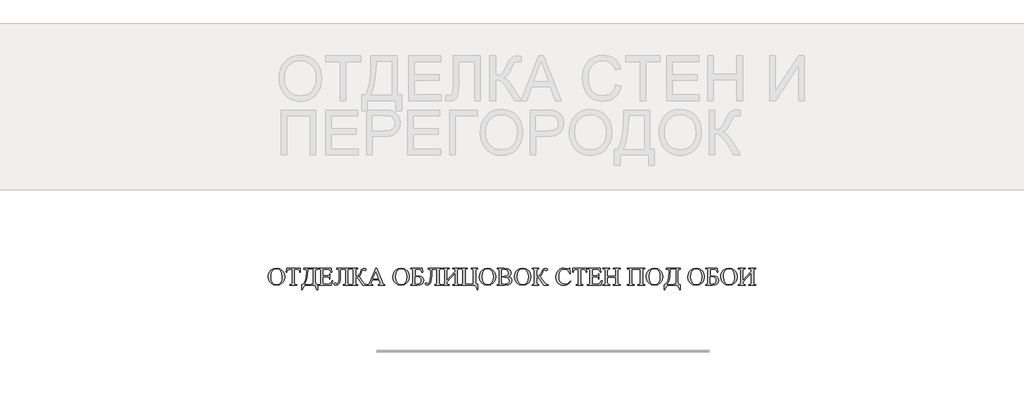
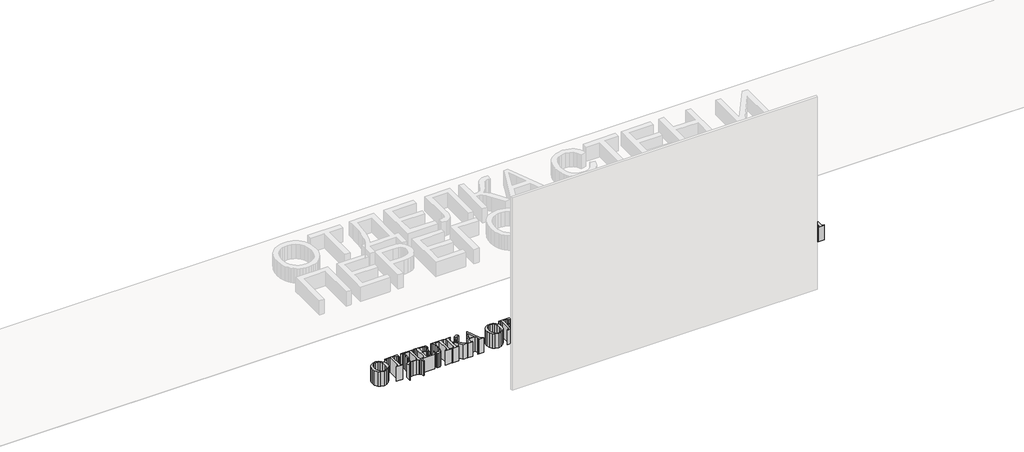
# One storey, part 14 of 17: 1 proxy.
"""IFC4 building model written with IfcOpenShell, lengths in millimetres."""

from ifc_helpers import new_model, si_unit, origin, origin_with_axes, place, context, project, spatial, polyline, outline, extrude, element, save

model = new_model("IFC4")

# Units and contexts
model_context = context("Model", 3, world=origin())
ifc_project = project(units=[si_unit("LENGTHUNIT", "METRE", prefix="MILLI")], contexts=[model_context])

# Site, building, storey
site = spatial("IfcSite", under=ifc_project)
building = spatial("IfcBuilding", under=site)
storey = spatial("IfcBuildingStorey", under=building, Name="Уровень 1", Elevation=0.0)

# Proxy
placement = place(None, origin())
element("IfcBuildingElementProxy", 1, Name="SG_Текст 2", ObjectType="SG_Текст 2", at=placement, inside=storey, context=model_context, shape_type="SweptSolid", body=[
    extrude(outline(polyline([(-694.4542029, 17619.3850863), (-666.748358, 17613.9243699), (-643.0048009, 17597.5422205), (-626.682991, 17572.994138), (-621.2423877, 17543.0356218), (-626.7232173, 17512.2273257), (-643.165706, 17487.1412168), (-667.3919784, 17470.4724553), (-696.2241589, 17464.9162014), (-725.2021597, 17470.3366916), (-749.1418199, 17486.5981621), (-765.2071873, 17511.4680548), (-770.5623098, 17542.7138117), (-769.0161124, 17559.485653), (-764.3775204, 17574.6434152), (-756.6465337, 17588.1870981), (-745.8231524, 17600.116702), (-722.2405004, 17614.5679902), (-694.4542029, 17619.3850863)]), holes=[polyline([(-696.5861954, 17611.6616421), (-715.0299411, 17607.9809382), (-729.4108334, 17596.9388265), (-740.9658301, 17574.3417181), (-744.8174956, 17543.2367532), (-740.8250381, 17511.1965275), (-728.8476656, 17487.4831401), (-714.6176218, 17476.3505193), (-696.4655165, 17472.6396457), (-676.8552089, 17476.7024992), (-660.9859445, 17488.8910596), (-650.4868875, 17509.8388908), (-646.9872019, 17540.1795565), (-650.8388674, 17573.3260047), (-662.3938641, 17596.8181476), (-677.1166797, 17607.9507685), (-696.5861954, 17611.6616421)])]), origin_with_axes(), (0.0, 0.0, 1.0), 150.0),
    extrude(outline(polyline([(-482.2203913, 17616.8106049), (-479.6459099, 17583.3423465), (-483.8294422, 17583.3423465), (-487.2486753, 17596.6170163), (-496.6012836, 17606.0500771), (-512.028059, 17609.0871606), (-533.7100196, 17609.0871606), (-533.7100196, 17493.235497), (-530.813728, 17474.9727695), (-518.1826786, 17470.0651643), (-513.1141683, 17470.0651643), (-513.1141683, 17467.4906828), (-574.9017223, 17467.4906828), (-574.9017223, 17470.0651643), (-569.7527594, 17470.0651643), (-561.8784667, 17471.583706), (-556.679221, 17476.1393313), (-554.3058709, 17493.235497), (-554.3058709, 17609.0871606), (-572.1663357, 17609.0871606), (-586.9696039, 17607.5585623), (-596.744588, 17599.4931947), (-601.5717407, 17583.3423465), (-605.7954992, 17583.3423465), (-603.2210178, 17616.8106049), (-482.2203913, 17616.8106049)])), origin_with_axes(), (0.0, 0.0, 1.0), 150.0),
    extrude(outline(polyline([(-448.7521329, 17616.8106049), (-325.1770251, 17616.8106049), (-325.1770251, 17611.6616421), (-342.0921725, 17607.2769784), (-345.7728764, 17588.6924407), (-345.7728764, 17506.4699405), (-343.0173767, 17476.9840831), (-337.179539, 17472.7603245), (-325.1770251, 17471.352405), (-325.1770251, 17423.7244988), (-330.3259879, 17423.7244988), (-340.6038004, 17450.4950829), (-348.1763961, 17458.9677414), (-356.6943092, 17464.0714497), (-378.235478, 17467.4906828), (-415.0827432, 17467.4906828), (-436.0506875, 17464.04128), (-450.6025415, 17453.6930715), (-459.6735658, 17439.3021227), (-464.1990214, 17423.7244988), (-469.3479843, 17423.7244988), (-469.3479843, 17471.352405), (-453.9966332, 17477.3964023), (-441.813101, 17492.4711978), (-432.837614, 17514.2939504), (-427.1103986, 17540.5818193), (-423.0073188, 17587.3649737), (-425.8633841, 17603.4554825), (-432.641511, 17609.9117992), (-448.7521329, 17611.6616421), (-448.7521329, 17616.8106049)]), holes=[polyline([(-410.1349117, 17609.0871606), (-414.0971995, 17553.1676141), (-420.5132899, 17516.8684318), (-429.4636355, 17493.2103556), (-441.0286887, 17475.2141271), (-386.6427688, 17475.2141271), (-369.2449061, 17477.8087216), (-366.3687277, 17494.7238691), (-366.3687277, 17609.0871606), (-410.1349117, 17609.0871606)])]), origin_with_axes(), (0.0, 0.0, 1.0), 150.0),
    extrude(outline(polyline([(-276.2618782, 17609.0871606), (-276.2618782, 17549.8740881), (-240.2191384, 17549.8740881), (-223.3643304, 17553.5346789), (-218.949497, 17560.1820703), (-217.0488056, 17570.4699394), (-214.4743242, 17570.4699394), (-214.4743242, 17521.5547925), (-217.0488056, 17521.5547925), (-220.1060023, 17534.5076522), (-226.5019796, 17540.1192171), (-240.2191384, 17542.1506439), (-276.2618782, 17542.1506439), (-276.2618782, 17492.1896139), (-275.3366739, 17479.9608272), (-272.098459, 17476.5013678), (-263.3492448, 17475.2141271), (-236.7999052, 17475.2141271), (-217.5114078, 17477.0645356), (-205.9463545, 17484.3857171), (-191.3039915, 17506.1079041), (-186.1550287, 17506.1079041), (-199.7515086, 17467.4906828), (-317.4535808, 17467.4906828), (-317.4535808, 17470.0651643), (-312.3448443, 17470.0651643), (-302.6905389, 17472.7200982), (-298.0846308, 17478.2109844), (-296.8577295, 17493.235497), (-296.8577295, 17591.0657907), (-299.6333423, 17609.5698759), (-312.3448443, 17614.2361235), (-317.4535808, 17614.2361235), (-317.4535808, 17616.8106049), (-201.6019172, 17616.8106049), (-199.0274357, 17583.3423465), (-204.1763986, 17583.3423465), (-209.4460402, 17600.3178333), (-218.0142362, 17607.3574309), (-234.0242925, 17609.0871606), (-276.2618782, 17609.0871606)])), origin_with_axes(), (0.0, 0.0, 1.0), 150.0),
    extrude(outline(polyline([(-72.8778464, 17609.0871606), (-119.2185119, 17609.0871606), (-119.2185119, 17566.8898012), (-122.0041812, 17514.2185262), (-130.3611893, 17483.9633413), (-143.6157459, 17469.6779864), (-161.0940612, 17464.9162014), (-173.926242, 17468.8986024), (-178.4315844, 17478.150645), (-175.5352928, 17485.1299032), (-168.4956952, 17488.0865342), (-160.5711196, 17484.4259434), (-151.5202084, 17480.3630899), (-142.6855134, 17484.3605757), (-135.650944, 17496.3530331), (-131.0500642, 17519.4982244), (-129.5164376, 17556.953912), (-129.5164376, 17588.4108568), (-133.1971414, 17607.2367521), (-150.1122889, 17611.6616421), (-150.1122889, 17616.8106049), (-31.6861438, 17616.8106049), (-31.6861438, 17614.2361235), (-48.6012912, 17609.8313467), (-52.2819951, 17591.0657907), (-52.2819951, 17493.235497), (-48.6012912, 17474.4699411), (-31.6861438, 17470.0651643), (-31.6861438, 17467.4906828), (-93.4736977, 17467.4906828), (-93.4736977, 17470.0651643), (-76.5585503, 17474.4699411), (-72.8778464, 17493.235497), (-72.8778464, 17609.0871606)])), origin_with_axes(), (0.0, 0.0, 1.0), 150.0),
    extrude(outline(polyline([(121.4150478, 17471.5937626), (121.4150478, 17467.4906828), (82.4357901, 17467.4906828), (55.6450929, 17505.3234918), (30.7450305, 17536.2977213), (17.2290031, 17539.5761624), (17.2290031, 17493.235497), (20.8493676, 17474.4699411), (37.8248544, 17470.0651643), (37.8248544, 17467.4906828), (-23.9626996, 17467.4906828), (-23.9626996, 17470.0651643), (-7.0877784, 17474.4297148), (-3.3668482, 17493.235497), (-3.3668482, 17591.0657907), (-7.0475521, 17609.8313467), (-23.9626996, 17614.2361235), (-23.9626996, 17616.8106049), (37.8248544, 17616.8106049), (37.8248544, 17614.2361235), (20.8493676, 17609.8313467), (17.2290031, 17591.0657907), (17.2290031, 17547.2996067), (34.1039242, 17548.9287707), (44.6432075, 17555.8476895), (53.9153632, 17567.4931953), (62.6846905, 17588.0085941), (70.8908501, 17606.633358), (81.1083232, 17615.6239299), (97.8424524, 17619.3850863), (110.7550857, 17616.2876633), (115.0592968, 17606.9953945), (111.6601768, 17599.4328553), (103.8763932, 17596.2147536), (93.3773362, 17600.277607), (84.3666512, 17603.9381978), (78.2120316, 17600.1971545), (70.0460983, 17581.1299015), (57.8575379, 17557.7483809), (42.6922333, 17544.8055778), (53.3924217, 17536.0161374), (69.3220254, 17516.2449246), (98.4056202, 17480.6849001), (108.8644509, 17474.0073389), (121.4150478, 17471.5937626)])), origin_with_axes(), (0.0, 0.0, 1.0), 150.0),
    extrude(outline(polyline([(226.6872019, 17516.4058297), (168.4395599, 17516.4058297), (158.8254809, 17494.0400224), (155.0844376, 17480.1217323), (158.3427656, 17473.6855287), (172.4219608, 17470.0651643), (172.4219608, 17467.4906828), (124.9549598, 17467.4906828), (124.9549598, 17470.0651643), (137.1032939, 17474.7314118), (149.6136646, 17498.1028759), (201.9882708, 17619.3850863), (207.4992701, 17619.3850863), (256.6557746, 17496.1317886), (268.1202622, 17475.4152584), (282.440815, 17470.0651643), (282.440815, 17467.4906828), (223.4288739, 17467.4906828), (223.4288739, 17470.0651643), (235.5168686, 17473.3838317), (238.674631, 17480.2826374), (234.2497411, 17497.4190293), (226.6872019, 17516.4058297)]), holes=[polyline([(223.5897789, 17524.129274), (198.7299428, 17584.750266), (171.7783405, 17524.129274), (223.5897789, 17524.129274)])]), origin_with_axes(), (0.0, 0.0, 1.0), 150.0),
    extrude(outline(polyline([(430.5941752, 17619.3850863), (458.3000201, 17613.9243699), (482.0435772, 17597.5422205), (498.3653871, 17572.994138), (503.8059904, 17543.0356218), (498.3251608, 17512.2273257), (481.8826721, 17487.1412168), (457.6563997, 17470.4724553), (428.8242192, 17464.9162014), (399.8462184, 17470.3366916), (375.9065583, 17486.5981621), (359.8411908, 17511.4680548), (354.4860684, 17542.7138117), (356.0322657, 17559.485653), (360.6708577, 17574.6434152), (368.4018444, 17588.1870981), (379.2252257, 17600.116702), (402.8078777, 17614.5679902), (430.5941752, 17619.3850863)]), holes=[polyline([(428.4621828, 17611.6616421), (410.018437, 17607.9809382), (395.6375447, 17596.9388265), (384.0825481, 17574.3417181), (380.2308825, 17543.2367532), (384.22334, 17511.1965275), (396.2007125, 17487.4831401), (410.4307563, 17476.3505193), (428.5828616, 17472.6396457), (448.1931692, 17476.7024992), (464.0624336, 17488.8910596), (474.5614906, 17509.8388908), (478.0611763, 17540.1795565), (474.2095107, 17573.3260047), (462.654514, 17596.8181476), (447.9316985, 17607.9507685), (428.4621828, 17611.6616421)])]), origin_with_axes(), (0.0, 0.0, 1.0), 150.0),
    extrude(outline(polyline([(620.2208219, 17616.8106049), (622.2321355, 17583.3423465), (617.0831726, 17583.3423465), (612.6331413, 17596.9941376), (606.2824186, 17604.561705), (596.1403697, 17607.9557967), (580.3163599, 17609.0871606), (555.2956187, 17609.0871606), (555.2956187, 17549.8740881), (561.4100121, 17549.8740881), (602.7223935, 17546.3945156), (614.6947377, 17541.320977), (624.2233359, 17533.0595064), (630.4533798, 17522.218526), (632.5300611, 17509.4064584), (629.4376665, 17493.7332971), (620.1604825, 17480.1016191), (603.3107027, 17470.6434169), (577.5005209, 17467.4906828), (514.1039161, 17467.4906828), (514.1039161, 17470.0651643), (531.0190635, 17474.4699411), (534.6997674, 17493.235497), (534.6997674, 17591.0657907), (533.0706034, 17606.4121135), (527.7607354, 17612.0236785), (514.1039161, 17614.2361235), (514.1039161, 17616.8106049), (620.2208219, 17616.8106049)]), holes=[polyline([(555.2956187, 17476.7829517), (570.6620546, 17475.2141271), (583.8009608, 17477.4869115), (595.6224565, 17484.3052646), (603.9945494, 17495.1361883), (606.785247, 17509.4466846), (603.8688423, 17523.9432275), (595.1196281, 17534.1255026), (581.8851846, 17540.1443585), (565.5130918, 17542.1506439), (555.2956187, 17541.2656659), (555.2956187, 17476.7829517)])]), origin_with_axes(), (0.0, 0.0, 1.0), 150.0),
    extrude(outline(polyline([(750.9562062, 17609.0871606), (704.6155407, 17609.0871606), (704.6155407, 17566.8898012), (701.8298714, 17514.2185262), (693.4728634, 17483.9633413), (680.2183067, 17469.6779864), (662.7399915, 17464.9162014), (649.9078107, 17468.8986024), (645.4024682, 17478.150645), (648.2987598, 17485.1299032), (655.3383574, 17488.0865342), (663.262933, 17484.4259434), (672.3138442, 17480.3630899), (681.1485392, 17484.3605757), (688.1831086, 17496.3530331), (692.7839884, 17519.4982244), (694.3176151, 17556.953912), (694.3176151, 17588.4108568), (690.6369112, 17607.2367521), (673.7217638, 17611.6616421), (673.7217638, 17616.8106049), (792.1479088, 17616.8106049), (792.1479088, 17614.2361235), (775.2327614, 17609.8313467), (771.5520575, 17591.0657907), (771.5520575, 17493.235497), (775.2327614, 17474.4699411), (792.1479088, 17470.0651643), (792.1479088, 17467.4906828), (730.3603549, 17467.4906828), (730.3603549, 17470.0651643), (747.2755023, 17474.4699411), (750.9562062, 17493.235497), (750.9562062, 17609.0871606)])), origin_with_axes(), (0.0, 0.0, 1.0), 150.0),
    extrude(outline(polyline([(915.7230167, 17591.0657907), (911.6400501, 17610.2134963), (895.1271654, 17614.2361235), (895.1271654, 17616.8106049), (956.9147193, 17616.8106049), (956.9147193, 17614.2361235), (939.9995719, 17609.8313467), (936.318868, 17591.0657907), (936.318868, 17493.235497), (939.9995719, 17474.4699411), (956.9147193, 17470.0651643), (956.9147193, 17467.4906828), (895.1271654, 17467.4906828), (895.1271654, 17470.0651643), (912.1026522, 17474.5302805), (915.7230167, 17493.235497), (915.7230167, 17578.1933837), (841.0630557, 17493.235497), (842.2698439, 17478.4121157), (847.3785804, 17472.4787406), (861.658907, 17470.0651643), (861.658907, 17467.4906828), (799.8713531, 17467.4906828), (799.8713531, 17470.0651643), (816.7865005, 17474.4699411), (820.4672044, 17493.235497), (820.4672044, 17591.0657907), (816.7865005, 17609.8313467), (799.8713531, 17614.2361235), (799.8713531, 17616.8106049), (861.658907, 17616.8106049), (861.658907, 17614.2361235), (844.7236465, 17609.8313467), (841.0630557, 17591.0657907), (841.0630557, 17506.1079041), (915.7230167, 17591.0657907)])), origin_with_axes(), (0.0, 0.0, 1.0), 150.0),
    extrude(outline(polyline([(1121.6815299, 17472.6396457), (1121.6815299, 17423.7244988), (1116.532567, 17423.7244988), (1111.3634911, 17440.0060824), (1102.0511091, 17454.2562393), (1087.5394814, 17464.182072), (1066.7726685, 17467.4906828), (964.6381636, 17467.4906828), (964.6381636, 17470.0651643), (981.553311, 17474.4699411), (985.2340149, 17493.235497), (985.2340149, 17591.0657907), (981.553311, 17609.8313467), (964.6381636, 17614.2361235), (964.6381636, 17616.8106049), (1026.4257175, 17616.8106049), (1026.4257175, 17614.2361235), (1009.5105701, 17609.8313467), (1005.8298662, 17591.0657907), (1005.8298662, 17489.8967164), (1007.1372201, 17477.2254407), (1021.4778861, 17475.2141271), (1062.9109463, 17475.2141271), (1079.3031522, 17477.4064589), (1080.4898272, 17491.9884826), (1080.4898272, 17591.0657907), (1076.8493496, 17609.8313467), (1059.8939759, 17614.2361235), (1059.8939759, 17616.8106049), (1121.6815299, 17616.8106049), (1121.6815299, 17614.2361235), (1104.7663825, 17609.8313467), (1101.0856786, 17591.0657907), (1101.0856786, 17495.4881682), (1104.545138, 17476.4008021), (1121.6815299, 17472.6396457)])), origin_with_axes(), (0.0, 0.0, 1.0), 150.0),
    extrude(outline(polyline([(1210.6620438, 17619.3850863), (1238.3678887, 17613.9243699), (1262.1114458, 17597.5422205), (1278.4332557, 17572.994138), (1283.873859, 17543.0356218), (1278.3930294, 17512.2273257), (1261.9505407, 17487.1412168), (1237.7242683, 17470.4724553), (1208.8920878, 17464.9162014), (1179.914087, 17470.3366916), (1155.9744268, 17486.5981621), (1139.9090594, 17511.4680548), (1134.5539369, 17542.7138117), (1136.1001343, 17559.485653), (1140.7387263, 17574.6434152), (1148.4697129, 17588.1870981), (1159.2930943, 17600.116702), (1182.8757463, 17614.5679902), (1210.6620438, 17619.3850863)]), holes=[polyline([(1208.5300513, 17611.6616421), (1190.0863056, 17607.9809382), (1175.7054133, 17596.9388265), (1164.1504166, 17574.3417181), (1160.2987511, 17543.2367532), (1164.2912086, 17511.1965275), (1176.2685811, 17487.4831401), (1190.4986249, 17476.3505193), (1208.6507302, 17472.6396457), (1228.2610378, 17476.7024992), (1244.1303021, 17488.8910596), (1254.6293592, 17509.8388908), (1258.1290448, 17540.1795565), (1254.2773793, 17573.3260047), (1242.7223826, 17596.8181476), (1227.999567, 17607.9507685), (1208.5300513, 17611.6616421)])]), origin_with_axes(), (0.0, 0.0, 1.0), 150.0),
    extrude(outline(polyline([(1393.7318081, 17542.8344905), (1407.4489669, 17538.5906188), (1417.223951, 17532.3756597), (1425.3396014, 17521.2430389), (1428.0448182, 17507.87786), (1426.2899471, 17497.1223605), (1421.0253337, 17486.8194066), (1412.7035237, 17478.1053904), (1401.7770625, 17472.1167041), (1364.4068557, 17467.4906828), (1294.1717846, 17467.4906828), (1294.1717846, 17470.0651643), (1299.5218788, 17470.0651643), (1307.1950402, 17471.6038192), (1312.3540596, 17476.2197839), (1314.767636, 17493.235497), (1314.767636, 17591.0657907), (1311.7104393, 17609.2078395), (1299.5218788, 17614.2361235), (1294.1717846, 17614.2361235), (1294.1717846, 17616.8106049), (1358.0511047, 17616.8106049), (1386.7324367, 17614.1556709), (1401.1636119, 17608.5893605), (1411.7129517, 17599.9356837), (1418.1692684, 17588.9689963), (1420.3213739, 17576.463654), (1418.6368988, 17565.7131827), (1413.5834734, 17556.1493866), (1405.2516068, 17548.3354332), (1393.7318081, 17542.8344905)]), holes=[polyline([(1335.3634873, 17478.150645), (1360.9071701, 17475.2141271), (1378.7022672, 17477.4316003), (1391.7003813, 17484.0840201), (1399.6500984, 17493.9947679), (1402.300004, 17505.9872252), (1397.4527383, 17522.5001099), (1391.1171004, 17529.600047), (1381.8047184, 17535.0104806), (1355.0743606, 17539.5761624), (1343.2679497, 17539.354918), (1335.3634873, 17538.6107319), (1335.3634873, 17478.150645)]), polyline([(1335.3634873, 17548.8684313), (1344.7764349, 17547.7018694), (1356.4018276, 17547.2996067), (1380.8795142, 17550.7992924), (1387.7079238, 17555.2241823), (1391.8210602, 17561.4994807), (1394.5765598, 17577.2681794), (1392.012135, 17589.4919378), (1384.3188604, 17599.7747786), (1371.7079241, 17606.7590651), (1354.390514, 17609.0871606), (1335.3634873, 17606.633358), (1335.3634873, 17548.8684313)])]), origin_with_axes(), (0.0, 0.0, 1.0), 150.0),
    extrude(outline(polyline([(1527.3232577, 17619.3850863), (1555.0291026, 17613.9243699), (1578.7726598, 17597.5422205), (1595.0944697, 17572.994138), (1600.535073, 17543.0356218), (1595.0542434, 17512.2273257), (1578.6117547, 17487.1412168), (1554.3854823, 17470.4724553), (1525.5533018, 17464.9162014), (1496.575301, 17470.3366916), (1472.6356408, 17486.5981621), (1456.5702734, 17511.4680548), (1451.2151509, 17542.7138117), (1452.7613483, 17559.485653), (1457.3999403, 17574.6434152), (1465.1309269, 17588.1870981), (1475.9543083, 17600.116702), (1499.5369603, 17614.5679902), (1527.3232577, 17619.3850863)]), holes=[polyline([(1525.1912653, 17611.6616421), (1506.7475196, 17607.9809382), (1492.3666273, 17596.9388265), (1480.8116306, 17574.3417181), (1476.9599651, 17543.2367532), (1480.9524226, 17511.1965275), (1492.9297951, 17487.4831401), (1507.1598388, 17476.3505193), (1525.3119441, 17472.6396457), (1544.9222518, 17476.7024992), (1560.7915161, 17488.8910596), (1571.2905731, 17509.8388908), (1574.7902588, 17540.1795565), (1570.9385933, 17573.3260047), (1559.3835966, 17596.8181476), (1544.660781, 17607.9507685), (1525.1912653, 17611.6616421)])]), origin_with_axes(), (0.0, 0.0, 1.0), 150.0),
    extrude(outline(polyline([(1756.210746, 17471.5937626), (1756.210746, 17467.4906828), (1717.2314883, 17467.4906828), (1690.4407911, 17505.3234918), (1665.5407287, 17536.2977213), (1652.0247012, 17539.5761624), (1652.0247012, 17493.235497), (1655.6450657, 17474.4699411), (1672.6205526, 17470.0651643), (1672.6205526, 17467.4906828), (1610.8329986, 17467.4906828), (1610.8329986, 17470.0651643), (1627.7079198, 17474.4297148), (1631.4288499, 17493.235497), (1631.4288499, 17591.0657907), (1627.748146, 17609.8313467), (1610.8329986, 17614.2361235), (1610.8329986, 17616.8106049), (1672.6205526, 17616.8106049), (1672.6205526, 17614.2361235), (1655.6450657, 17609.8313467), (1652.0247012, 17591.0657907), (1652.0247012, 17547.2996067), (1668.8996224, 17548.9287707), (1679.4389057, 17555.8476895), (1688.7110614, 17567.4931953), (1697.4803887, 17588.0085941), (1705.6865482, 17606.633358), (1715.9040213, 17615.6239299), (1732.6381505, 17619.3850863), (1745.5507839, 17616.2876633), (1749.854995, 17606.9953945), (1746.455875, 17599.4328553), (1738.6720914, 17596.2147536), (1728.1730343, 17600.277607), (1719.1623494, 17603.9381978), (1713.0077298, 17600.1971545), (1704.8417965, 17581.1299015), (1692.6532361, 17557.7483809), (1677.4879315, 17544.8055778), (1688.1881199, 17536.0161374), (1704.1177236, 17516.2449246), (1733.2013183, 17480.6849001), (1743.6601491, 17474.0073389), (1756.210746, 17471.5937626)])), origin_with_axes(), (0.0, 0.0, 1.0), 150.0),
    extrude(outline(polyline([(1950.6645453, 17619.3850863), (1953.2390267, 17567.895458), (1950.6645453, 17567.895458), (1942.5539232, 17587.9231132), (1931.5771792, 17601.4240558), (1917.9354447, 17609.1022455), (1901.829851, 17611.6616421), (1887.966872, 17609.8062053), (1875.5017559, 17604.2398949), (1864.9926423, 17594.6057027), (1856.9976707, 17580.5466206), (1851.9442453, 17562.2889213), (1850.2597702, 17540.0588777), (1851.8637928, 17521.4341137), (1856.6758606, 17505.4642837), (1864.7160867, 17492.5315372), (1876.0045843, 17483.0180239), (1889.8223088, 17477.1651013), (1905.4502155, 17475.2141271), (1930.81288, 17480.9061446), (1942.3527919, 17489.4089729), (1954.9687564, 17503.5334226), (1958.3879896, 17500.9589412), (1946.2748534, 17484.7628384), (1932.3012521, 17473.5849631), (1915.9945271, 17467.0833918), (1896.8820195, 17464.9162014), (1879.4414164, 17466.6182756), (1864.0875512, 17471.724498), (1850.8204238, 17480.2348687), (1839.6400343, 17492.1493876), (1828.2962256, 17514.2134979), (1824.514956, 17539.8577464), (1827.0140132, 17561.0821332), (1834.5111846, 17580.5063943), (1846.3930198, 17596.9438547), (1862.0460679, 17609.2078395), (1880.3993045, 17616.8407746), (1900.3817052, 17619.3850863), (1932.2409127, 17613.4718243), (1938.8380213, 17611.6616421), (1944.0272104, 17613.2304667), (1948.0900639, 17619.3850863), (1950.6645453, 17619.3850863)])), origin_with_axes(), (0.0, 0.0, 1.0), 150.0),
    extrude(outline(polyline([(2099.9844674, 17616.8106049), (2102.5589488, 17583.3423465), (2098.3754165, 17583.3423465), (2094.9561833, 17596.6170163), (2085.6035751, 17606.0500771), (2070.1767997, 17609.0871606), (2048.4948391, 17609.0871606), (2048.4948391, 17493.235497), (2051.3911307, 17474.9727695), (2064.0221801, 17470.0651643), (2069.0906904, 17470.0651643), (2069.0906904, 17467.4906828), (2007.3031364, 17467.4906828), (2007.3031364, 17470.0651643), (2012.4520993, 17470.0651643), (2020.326392, 17471.583706), (2025.5256377, 17476.1393313), (2027.8989878, 17493.235497), (2027.8989878, 17609.0871606), (2010.0385229, 17609.0871606), (1995.2352548, 17607.5585623), (1985.4602707, 17599.4931947), (1980.633118, 17583.3423465), (1976.4093595, 17583.3423465), (1978.9838409, 17616.8106049), (2099.9844674, 17616.8106049)])), origin_with_axes(), (0.0, 0.0, 1.0), 150.0),
    extrude(outline(polyline([(2151.4740957, 17609.0871606), (2151.4740957, 17549.8740881), (2187.5168355, 17549.8740881), (2204.3716435, 17553.5346789), (2208.7864768, 17560.1820703), (2210.6871682, 17570.4699394), (2213.2616496, 17570.4699394), (2213.2616496, 17521.5547925), (2210.6871682, 17521.5547925), (2207.6299715, 17534.5076522), (2201.2339942, 17540.1192171), (2187.5168355, 17542.1506439), (2151.4740957, 17542.1506439), (2151.4740957, 17492.1896139), (2152.3992999, 17479.9608272), (2155.6375148, 17476.5013678), (2164.386729, 17475.2141271), (2190.9360686, 17475.2141271), (2210.2245661, 17477.0645356), (2221.7896193, 17484.3857171), (2236.4319823, 17506.1079041), (2241.5809452, 17506.1079041), (2227.9844652, 17467.4906828), (2110.282393, 17467.4906828), (2110.282393, 17470.0651643), (2115.3911296, 17470.0651643), (2125.0454349, 17472.7200982), (2129.651343, 17478.2109844), (2130.8782443, 17493.235497), (2130.8782443, 17591.0657907), (2128.1026316, 17609.5698759), (2115.3911296, 17614.2361235), (2110.282393, 17614.2361235), (2110.282393, 17616.8106049), (2226.1340567, 17616.8106049), (2228.7085381, 17583.3423465), (2223.5595753, 17583.3423465), (2218.2899336, 17600.3178333), (2209.7217377, 17607.3574309), (2193.7116814, 17609.0871606), (2151.4740957, 17609.0871606)])), origin_with_axes(), (0.0, 0.0, 1.0), 150.0),
    extrude(outline(polyline([(2290.496092, 17547.2996067), (2365.1560531, 17547.2996067), (2365.1560531, 17591.0657907), (2363.7883598, 17606.633358), (2359.3232436, 17611.500737), (2349.6689383, 17614.2361235), (2344.5602017, 17614.2361235), (2344.5602017, 17616.8106049), (2406.3477557, 17616.8106049), (2406.3477557, 17614.2361235), (2401.2390191, 17614.2361235), (2391.5847138, 17611.6214158), (2386.9788057, 17606.1104165), (2385.7519044, 17591.0657907), (2385.7519044, 17493.235497), (2387.1195976, 17477.708156), (2391.5042613, 17472.8005508), (2401.2390191, 17470.0651643), (2406.3477557, 17470.0651643), (2406.3477557, 17467.4906828), (2344.5602017, 17467.4906828), (2344.5602017, 17470.0651643), (2349.6689383, 17470.0651643), (2357.2817603, 17471.4630272), (2362.5011191, 17475.6566161), (2365.1560531, 17493.235497), (2365.1560531, 17539.5761624), (2290.496092, 17539.5761624), (2290.496092, 17493.235497), (2291.8637853, 17477.708156), (2296.2886752, 17472.8005508), (2305.9027542, 17470.0651643), (2311.0919433, 17470.0651643), (2311.0919433, 17467.4906828), (2249.3043894, 17467.4906828), (2249.3043894, 17470.0651643), (2254.413126, 17470.0651643), (2262.0963439, 17471.4630272), (2267.3659856, 17475.6566161), (2269.9002407, 17493.235497), (2269.9002407, 17591.0657907), (2268.5325475, 17606.633358), (2264.1478838, 17611.500737), (2254.413126, 17614.2361235), (2249.3043894, 17614.2361235), (2249.3043894, 17616.8106049), (2311.0919433, 17616.8106049), (2311.0919433, 17614.2361235), (2305.9027542, 17614.2361235), (2296.2886752, 17611.6214158), (2291.7632196, 17606.1104165), (2290.496092, 17591.0657907), (2290.496092, 17547.2996067)])), origin_with_axes(), (0.0, 0.0, 1.0), 150.0),
    extrude(outline(polyline([(2586.5614547, 17609.0871606), (2511.9014937, 17609.0871606), (2511.9014937, 17493.235497), (2515.5218582, 17474.4699411), (2532.497345, 17470.0651643), (2532.497345, 17467.4906828), (2470.709791, 17467.4906828), (2470.709791, 17470.0651643), (2487.6249385, 17474.4699411), (2491.3056424, 17493.235497), (2491.3056424, 17591.0657907), (2487.6249385, 17609.8313467), (2470.709791, 17614.2361235), (2470.709791, 17616.8106049), (2627.7531573, 17616.8106049), (2627.7531573, 17614.2361235), (2610.8380099, 17609.8313467), (2607.157306, 17591.0657907), (2607.157306, 17493.235497), (2610.8380099, 17474.4699411), (2627.7531573, 17470.0651643), (2627.7531573, 17467.4906828), (2565.9656034, 17467.4906828), (2565.9656034, 17470.0651643), (2582.8606377, 17474.4297148), (2586.5614547, 17493.235497), (2586.5614547, 17609.0871606)])), origin_with_axes(), (0.0, 0.0, 1.0), 150.0),
    extrude(outline(polyline([(2716.7336712, 17619.3850863), (2744.4395161, 17613.9243699), (2768.1830732, 17597.5422205), (2784.5048831, 17572.994138), (2789.9454864, 17543.0356218), (2784.4646569, 17512.2273257), (2768.0221681, 17487.1412168), (2743.7958958, 17470.4724553), (2714.9637152, 17464.9162014), (2685.9857145, 17470.3366916), (2662.0460543, 17486.5981621), (2645.9806869, 17511.4680548), (2640.6255644, 17542.7138117), (2642.1717617, 17559.485653), (2646.8103537, 17574.6434152), (2654.5413404, 17588.1870981), (2665.3647217, 17600.116702), (2688.9473738, 17614.5679902), (2716.7336712, 17619.3850863)]), holes=[polyline([(2714.6016788, 17611.6616421), (2696.157933, 17607.9809382), (2681.7770408, 17596.9388265), (2670.2220441, 17574.3417181), (2666.3703785, 17543.2367532), (2670.362836, 17511.1965275), (2682.3402086, 17487.4831401), (2696.5702523, 17476.3505193), (2714.7223576, 17472.6396457), (2734.3326653, 17476.7024992), (2750.2019296, 17488.8910596), (2760.7009866, 17509.8388908), (2764.2006723, 17540.1795565), (2760.3490067, 17573.3260047), (2748.7940101, 17596.8181476), (2734.0711945, 17607.9507685), (2714.6016788, 17611.6616421)])]), origin_with_axes(), (0.0, 0.0, 1.0), 150.0),
    extrude(outline(polyline([(2823.4137448, 17616.8106049), (2946.9888527, 17616.8106049), (2946.9888527, 17611.6616421), (2930.0737053, 17607.2769784), (2926.3930014, 17588.6924407), (2926.3930014, 17506.4699405), (2929.148501, 17476.9840831), (2934.9863388, 17472.7603245), (2946.9888527, 17471.352405), (2946.9888527, 17423.7244988), (2941.8398899, 17423.7244988), (2931.5620774, 17450.4950829), (2923.9894816, 17458.9677414), (2915.4715685, 17464.0714497), (2893.9303998, 17467.4906828), (2857.0831346, 17467.4906828), (2836.1151902, 17464.04128), (2821.5633363, 17453.6930715), (2812.4923119, 17439.3021227), (2807.9668563, 17423.7244988), (2802.8178935, 17423.7244988), (2802.8178935, 17471.352405), (2818.1692446, 17477.3964023), (2830.3527768, 17492.4711978), (2839.3282637, 17514.2939504), (2845.0554792, 17540.5818193), (2849.158559, 17587.3649737), (2846.3024936, 17603.4554825), (2839.5243668, 17609.9117992), (2823.4137448, 17611.6616421), (2823.4137448, 17616.8106049)]), holes=[polyline([(2862.030966, 17609.0871606), (2858.0686782, 17553.1676141), (2851.6525878, 17516.8684318), (2842.7022423, 17493.2103556), (2831.1371891, 17475.2141271), (2885.5231089, 17475.2141271), (2902.9209716, 17477.8087216), (2905.7971501, 17494.7238691), (2905.7971501, 17609.0871606), (2862.030966, 17609.0871606)])]), origin_with_axes(), (0.0, 0.0, 1.0), 150.0),
    extrude(outline(polyline([(3092.6079577, 17619.3850863), (3120.3138026, 17613.9243699), (3144.0573597, 17597.5422205), (3160.3791696, 17572.994138), (3165.8197729, 17543.0356218), (3160.3389434, 17512.2273257), (3143.8964546, 17487.1412168), (3119.6701823, 17470.4724553), (3090.8380017, 17464.9162014), (3061.860001, 17470.3366916), (3037.9203408, 17486.5981621), (3021.8549734, 17511.4680548), (3016.4998509, 17542.7138117), (3018.0460482, 17559.485653), (3022.6846402, 17574.6434152), (3030.4156269, 17588.1870981), (3041.2390082, 17600.116702), (3064.8216603, 17614.5679902), (3092.6079577, 17619.3850863)]), holes=[polyline([(3090.4759653, 17611.6616421), (3072.0322195, 17607.9809382), (3057.6513273, 17596.9388265), (3046.0963306, 17574.3417181), (3042.2446651, 17543.2367532), (3046.2371226, 17511.1965275), (3058.2144951, 17487.4831401), (3072.4445388, 17476.3505193), (3090.5966441, 17472.6396457), (3110.2069518, 17476.7024992), (3126.0762161, 17488.8910596), (3136.5752731, 17509.8388908), (3140.0749588, 17540.1795565), (3136.2232932, 17573.3260047), (3124.6682966, 17596.8181476), (3109.945481, 17607.9507685), (3090.4759653, 17611.6616421)])]), origin_with_axes(), (0.0, 0.0, 1.0), 150.0),
    extrude(outline(polyline([(3282.2346044, 17616.8106049), (3284.245918, 17583.3423465), (3279.0969552, 17583.3423465), (3274.6469238, 17596.9941376), (3268.2962011, 17604.561705), (3258.1541523, 17607.9557967), (3242.3301425, 17609.0871606), (3217.3094012, 17609.0871606), (3217.3094012, 17549.8740881), (3223.4237946, 17549.8740881), (3264.736176, 17546.3945156), (3276.7085203, 17541.320977), (3286.2371185, 17533.0595064), (3292.4671624, 17522.218526), (3294.5438437, 17509.4064584), (3291.451449, 17493.7332971), (3282.174265, 17480.1016191), (3265.3244853, 17470.6434169), (3239.5143034, 17467.4906828), (3176.1176986, 17467.4906828), (3176.1176986, 17470.0651643), (3193.032846, 17474.4699411), (3196.7135499, 17493.235497), (3196.7135499, 17591.0657907), (3195.0843859, 17606.4121135), (3189.774518, 17612.0236785), (3176.1176986, 17614.2361235), (3176.1176986, 17616.8106049), (3282.2346044, 17616.8106049)]), holes=[polyline([(3217.3094012, 17476.7829517), (3232.6758372, 17475.2141271), (3245.8147433, 17477.4869115), (3257.636239, 17484.3052646), (3266.0083319, 17495.1361883), (3268.7990295, 17509.4466846), (3265.8826248, 17523.9432275), (3257.1334106, 17534.1255026), (3243.8989671, 17540.1443585), (3227.5268743, 17542.1506439), (3217.3094012, 17541.2656659), (3217.3094012, 17476.7829517)])]), origin_with_axes(), (0.0, 0.0, 1.0), 150.0),
    extrude(outline(polyline([(3388.6733204, 17619.3850863), (3416.3791653, 17613.9243699), (3440.1227224, 17597.5422205), (3456.4445323, 17572.994138), (3461.8851356, 17543.0356218), (3456.404306, 17512.2273257), (3439.9618173, 17487.1412168), (3415.7355449, 17470.4724553), (3386.9033644, 17464.9162014), (3357.9253636, 17470.3366916), (3333.9857035, 17486.5981621), (3317.920336, 17511.4680548), (3312.5652136, 17542.7138117), (3314.1114109, 17559.485653), (3318.7500029, 17574.6434152), (3326.4809896, 17588.1870981), (3337.3043709, 17600.116702), (3360.8870229, 17614.5679902), (3388.6733204, 17619.3850863)]), holes=[polyline([(3386.541328, 17611.6616421), (3368.0975822, 17607.9809382), (3353.7166899, 17596.9388265), (3342.1616933, 17574.3417181), (3338.3100277, 17543.2367532), (3342.3024852, 17511.1965275), (3354.2798577, 17487.4831401), (3368.5099015, 17476.3505193), (3386.6620068, 17472.6396457), (3406.2723144, 17476.7024992), (3422.1415788, 17488.8910596), (3432.6406358, 17509.8388908), (3436.1403215, 17540.1795565), (3432.2886559, 17573.3260047), (3420.7336592, 17596.8181476), (3406.0108437, 17607.9507685), (3386.541328, 17611.6616421)])]), origin_with_axes(), (0.0, 0.0, 1.0), 150.0),
    extrude(outline(polyline([(3588.0347249, 17591.0657907), (3583.9517583, 17610.2134963), (3567.4388736, 17614.2361235), (3567.4388736, 17616.8106049), (3629.2264275, 17616.8106049), (3629.2264275, 17614.2361235), (3612.3112801, 17609.8313467), (3608.6305762, 17591.0657907), (3608.6305762, 17493.235497), (3612.3112801, 17474.4699411), (3629.2264275, 17470.0651643), (3629.2264275, 17467.4906828), (3567.4388736, 17467.4906828), (3567.4388736, 17470.0651643), (3584.4143604, 17474.5302805), (3588.0347249, 17493.235497), (3588.0347249, 17578.1933837), (3513.3747639, 17493.235497), (3514.5815521, 17478.4121157), (3519.6902886, 17472.4787406), (3533.9706152, 17470.0651643), (3533.9706152, 17467.4906828), (3472.1830613, 17467.4906828), (3472.1830613, 17470.0651643), (3489.0982087, 17474.4699411), (3492.7789126, 17493.235497), (3492.7789126, 17591.0657907), (3489.0982087, 17609.8313467), (3472.1830613, 17614.2361235), (3472.1830613, 17616.8106049), (3533.9706152, 17616.8106049), (3533.9706152, 17614.2361235), (3517.0353547, 17609.8313467), (3513.3747639, 17591.0657907), (3513.3747639, 17506.1079041), (3588.0347249, 17591.0657907)])), origin_with_axes(), (0.0, 0.0, 1.0), 150.0),
])

save(model, "model.ifc")
